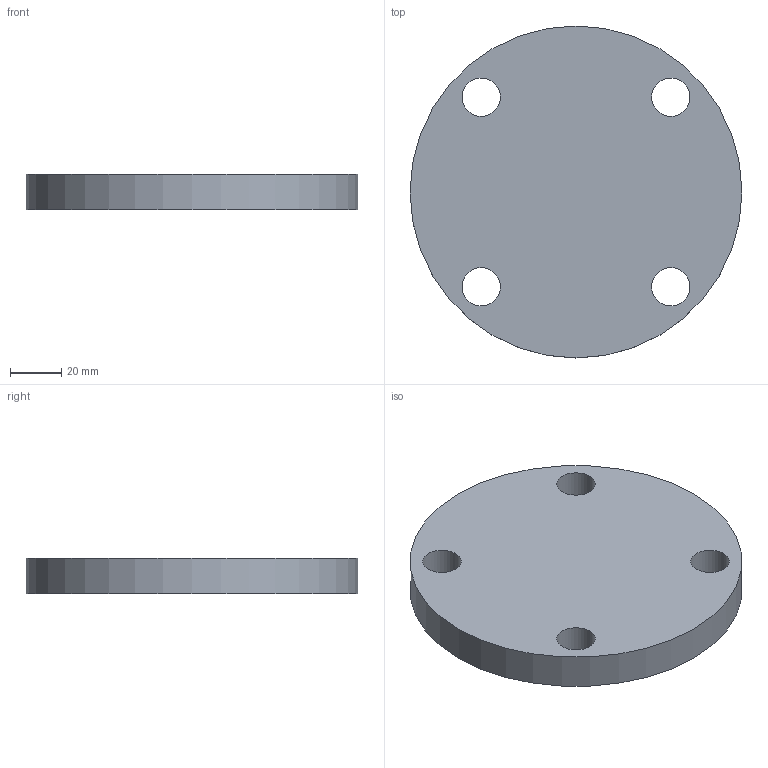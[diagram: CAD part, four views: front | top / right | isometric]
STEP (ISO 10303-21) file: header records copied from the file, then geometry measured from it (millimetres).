
FILE_DESCRIPTION(/* description */ (''),/* implementation_level */ '2;1');
FILE_NAME(/* name */ 'C:\Users\D\Documents\Inventor\HP\JIS\フランジ\JIS 5k bl ff\jis5k-bl-ff-50.stp',/* time_stamp */ '2024-09-12T16:49:44+09:00',/* author */ ('D'),/* organization */ (''),/* preprocessor_version */ 'ST-DEVELOPER v18',/* originating_system */ 'Autodesk Inventor 2020',/* authorisation */ '');
FILE_SCHEMA (('AUTOMOTIVE_DESIGN { 1 0 10303 214 3 1 1 }'));
Length unit declared in the file: millimetre
Products named in the file (1): jis5k-sop-rf-10
Bounding box: 130 x 130 x 14 mm (x, y, z)
Volume: 175929.2 mm3; surface area: 33489.4 mm2
Topology: 1 solids, 1 shells, 7 faces, 21 edges, 16 vertices
Faces by surface type: cylinder 5, plane 2
Full cylindrical faces by diameter (mm): 15 x4, 130 x1
Entity records: 316 total; most frequent: DIRECTION 53, CARTESIAN_POINT 45, ORIENTED_EDGE 42, AXIS2_PLACEMENT_3D 24, EDGE_CURVE 21, CIRCLE 16, VERTEX_POINT 16, EDGE_LOOP 15
